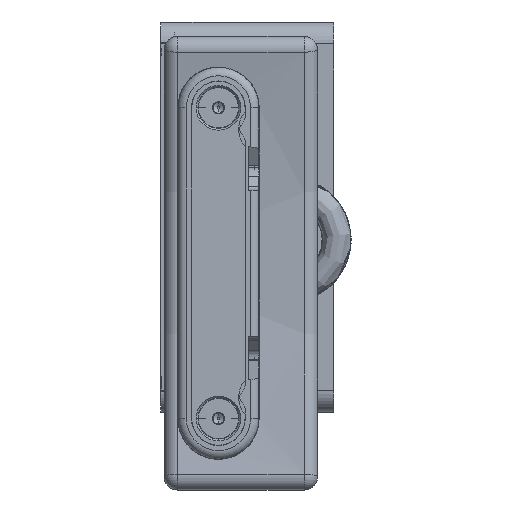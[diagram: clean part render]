
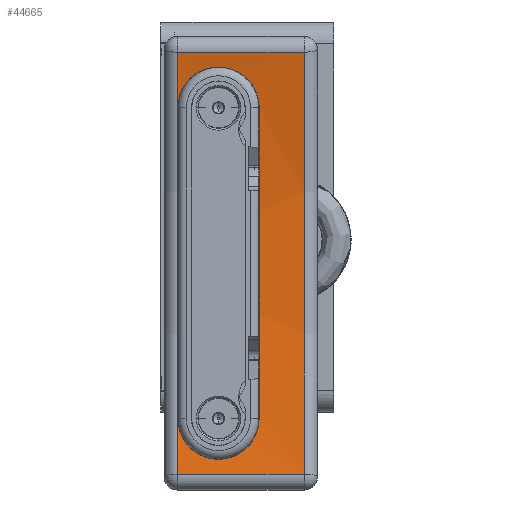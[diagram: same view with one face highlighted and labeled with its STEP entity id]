
A CAD part, left-side view. The second image highlights one B-rep face of the part: STEP entity #44665.
In plain terms, the highlighted cylindrical face has radius 139.7 mm (diameter 279.4 mm), a partial arc.
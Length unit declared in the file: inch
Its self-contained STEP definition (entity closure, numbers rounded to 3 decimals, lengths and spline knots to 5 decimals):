
#583=FACE_BOUND('',#16453,.T.);
#5680=LINE('',#85558,#10988);
#5687=LINE('',#85622,#10995);
#10988=VECTOR('',#57805,1.);
#10995=VECTOR('',#57868,1.);
#11566=B_SPLINE_CURVE_WITH_KNOTS('',3,(#85631,#85632,#85633,#85634,#85635,
#85636,#85637,#85638,#85639,#85640,#85641,#85642,#85643,#85644,#85645,#85646,
#85647,#85648),.UNSPECIFIED.,.F.,.F.,(4,2,2,2,2,2,2,2,4),(0.2888,
0.36156,0.43432,0.50626,0.57819,
0.65013,0.72206,0.79482,0.86758),
 .UNSPECIFIED.);
#11567=B_SPLINE_CURVE_WITH_KNOTS('',3,(#85657,#85658,#85659,#85660,#85661,
#85662,#85663,#85664,#85665,#85666,#85667,#85668,#85669,#85670,#85671,#85672,
#85673,#85674,#85675),.UNSPECIFIED.,.F.,.F.,(4,2,2,2,3,2,2,2,4),(-0.28939,
-0.21663,-0.14387,-0.07193,0.,0.07193,
0.14387,0.21663,0.28939),.UNSPECIFIED.);
#11758=CYLINDRICAL_SURFACE('',#47394,5.5);
#13989=FACE_OUTER_BOUND('',#16452,.T.);
#16452=EDGE_LOOP('',(#39719,#39720,#39721,#39722));
#16453=EDGE_LOOP('',(#39723,#39724,#39725,#39726));
#17043=CIRCLE('',#47340,5.5);
#17058=CIRCLE('',#47365,5.5);
#17072=CIRCLE('',#47390,5.5);
#17073=CIRCLE('',#47393,5.5);
#21123=VERTEX_POINT('',#85503);
#21126=VERTEX_POINT('',#85508);
#21134=VERTEX_POINT('',#85556);
#21138=VERTEX_POINT('',#85572);
#21146=VERTEX_POINT('',#85629);
#21147=VERTEX_POINT('',#85630);
#21148=VERTEX_POINT('',#85652);
#21149=VERTEX_POINT('',#85656);
#27355=EDGE_CURVE('',#21126,#21123,#17043,.T.);
#27372=EDGE_CURVE('',#21134,#21126,#5680,.T.);
#27379=EDGE_CURVE('',#21138,#21134,#17058,.T.);
#27396=EDGE_CURVE('',#21138,#21123,#5687,.T.);
#27399=EDGE_CURVE('',#21146,#21147,#11566,.T.);
#27402=EDGE_CURVE('',#21147,#21148,#17072,.T.);
#27404=EDGE_CURVE('',#21148,#21149,#11567,.T.);
#27406=EDGE_CURVE('',#21149,#21146,#17073,.T.);
#39719=ORIENTED_EDGE('',*,*,#27355,.F.);
#39720=ORIENTED_EDGE('',*,*,#27372,.F.);
#39721=ORIENTED_EDGE('',*,*,#27379,.F.);
#39722=ORIENTED_EDGE('',*,*,#27396,.T.);
#39723=ORIENTED_EDGE('',*,*,#27404,.T.);
#39724=ORIENTED_EDGE('',*,*,#27406,.T.);
#39725=ORIENTED_EDGE('',*,*,#27399,.T.);
#39726=ORIENTED_EDGE('',*,*,#27402,.T.);
#44665=ADVANCED_FACE('',(#13989,#583),#11758,.F.);
#47340=AXIS2_PLACEMENT_3D('',#85510,#57766,#57767);
#47365=AXIS2_PLACEMENT_3D('',#85574,#57825,#57826);
#47390=AXIS2_PLACEMENT_3D('',#85653,#57883,#57884);
#47393=AXIS2_PLACEMENT_3D('',#85678,#57891,#57892);
#47394=AXIS2_PLACEMENT_3D('',#85679,#57893,#57894);
#57766=DIRECTION('center_axis',(0.,1.,0.));
#57767=DIRECTION('ref_axis',(1.,0.,0.));
#57805=DIRECTION('',(0.,-1.,0.));
#57825=DIRECTION('center_axis',(0.,-1.,0.));
#57826=DIRECTION('ref_axis',(1.,0.,0.));
#57868=DIRECTION('',(0.,-1.,0.));
#57883=DIRECTION('center_axis',(0.,-1.,0.));
#57884=DIRECTION('ref_axis',(1.,0.,0.));
#57891=DIRECTION('center_axis',(0.,1.,0.));
#57892=DIRECTION('ref_axis',(1.,0.,0.));
#57893=DIRECTION('center_axis',(0.,-1.,0.));
#57894=DIRECTION('ref_axis',(1.,0.,0.));
#85503=CARTESIAN_POINT('',(31.78097,-34.99403,13.13868));
#85508=CARTESIAN_POINT('',(31.78097,-34.99403,15.11786));
#85510=CARTESIAN_POINT('Origin',(26.37072,-34.99403,14.12827));
#85556=CARTESIAN_POINT('',(31.78097,-34.39903,15.11786));
#85558=CARTESIAN_POINT('',(31.78097,-34.33653,15.11786));
#85572=CARTESIAN_POINT('',(31.78097,-34.39903,13.13868));
#85574=CARTESIAN_POINT('Origin',(26.37072,-34.39903,14.12827));
#85622=CARTESIAN_POINT('',(31.78097,-34.33653,13.13868));
#85629=CARTESIAN_POINT('',(31.82226,-34.78253,13.39977));
#85630=CARTESIAN_POINT('',(31.82226,-34.40053,13.39977));
#85631=CARTESIAN_POINT('Ctrl Pts',(31.82226,-34.78253,13.39977));
#85632=CARTESIAN_POINT('Ctrl Pts',(31.81905,-34.78253,13.37573));
#85633=CARTESIAN_POINT('Ctrl Pts',(31.81545,-34.77771,13.3501));
#85634=CARTESIAN_POINT('Ctrl Pts',(31.8085,-34.75813,13.30294));
#85635=CARTESIAN_POINT('Ctrl Pts',(31.80517,-34.74337,13.28142));
#85636=CARTESIAN_POINT('Ctrl Pts',(31.79979,-34.7094,13.2476));
#85637=CARTESIAN_POINT('Ctrl Pts',(31.79738,-34.688,13.23298));
#85638=CARTESIAN_POINT('Ctrl Pts',(31.79414,-34.64105,13.21356));
#85639=CARTESIAN_POINT('Ctrl Pts',(31.79332,-34.6155,13.20877));
#85640=CARTESIAN_POINT('Ctrl Pts',(31.79332,-34.56755,13.20877));
#85641=CARTESIAN_POINT('Ctrl Pts',(31.79414,-34.542,13.21356));
#85642=CARTESIAN_POINT('Ctrl Pts',(31.79738,-34.49505,13.23298));
#85643=CARTESIAN_POINT('Ctrl Pts',(31.79979,-34.47365,13.2476));
#85644=CARTESIAN_POINT('Ctrl Pts',(31.80517,-34.43968,13.28142));
#85645=CARTESIAN_POINT('Ctrl Pts',(31.8085,-34.42492,13.30294));
#85646=CARTESIAN_POINT('Ctrl Pts',(31.81545,-34.40534,13.3501));
#85647=CARTESIAN_POINT('Ctrl Pts',(31.81905,-34.40053,13.37573));
#85648=CARTESIAN_POINT('Ctrl Pts',(31.82226,-34.40053,13.39977));
#85652=CARTESIAN_POINT('',(31.82226,-34.40053,14.85677));
#85653=CARTESIAN_POINT('Origin',(26.37072,-34.40053,14.12827));
#85656=CARTESIAN_POINT('',(31.82226,-34.78253,14.85677));
#85657=CARTESIAN_POINT('Ctrl Pts',(31.82226,-34.40053,14.85677));
#85658=CARTESIAN_POINT('Ctrl Pts',(31.81905,-34.40053,14.88081));
#85659=CARTESIAN_POINT('Ctrl Pts',(31.81545,-34.40534,14.90644));
#85660=CARTESIAN_POINT('Ctrl Pts',(31.8085,-34.42492,14.95359));
#85661=CARTESIAN_POINT('Ctrl Pts',(31.80517,-34.43968,14.97512));
#85662=CARTESIAN_POINT('Ctrl Pts',(31.79979,-34.47365,15.00893));
#85663=CARTESIAN_POINT('Ctrl Pts',(31.79738,-34.49505,15.02356));
#85664=CARTESIAN_POINT('Ctrl Pts',(31.79414,-34.542,15.04297));
#85665=CARTESIAN_POINT('Ctrl Pts',(31.79332,-34.56755,15.04777));
#85666=CARTESIAN_POINT('Ctrl Pts',(31.79332,-34.59153,15.04777));
#85667=CARTESIAN_POINT('Ctrl Pts',(31.79332,-34.6155,15.04777));
#85668=CARTESIAN_POINT('Ctrl Pts',(31.79414,-34.64105,15.04297));
#85669=CARTESIAN_POINT('Ctrl Pts',(31.79738,-34.688,15.02356));
#85670=CARTESIAN_POINT('Ctrl Pts',(31.79979,-34.7094,15.00893));
#85671=CARTESIAN_POINT('Ctrl Pts',(31.80517,-34.74337,14.97512));
#85672=CARTESIAN_POINT('Ctrl Pts',(31.8085,-34.75813,14.95359));
#85673=CARTESIAN_POINT('Ctrl Pts',(31.81545,-34.77771,14.90644));
#85674=CARTESIAN_POINT('Ctrl Pts',(31.81905,-34.78253,14.88081));
#85675=CARTESIAN_POINT('Ctrl Pts',(31.82226,-34.78253,14.85677));
#85678=CARTESIAN_POINT('Origin',(26.37072,-34.78253,14.12827));
#85679=CARTESIAN_POINT('Origin',(26.37072,-34.33653,14.12827));
